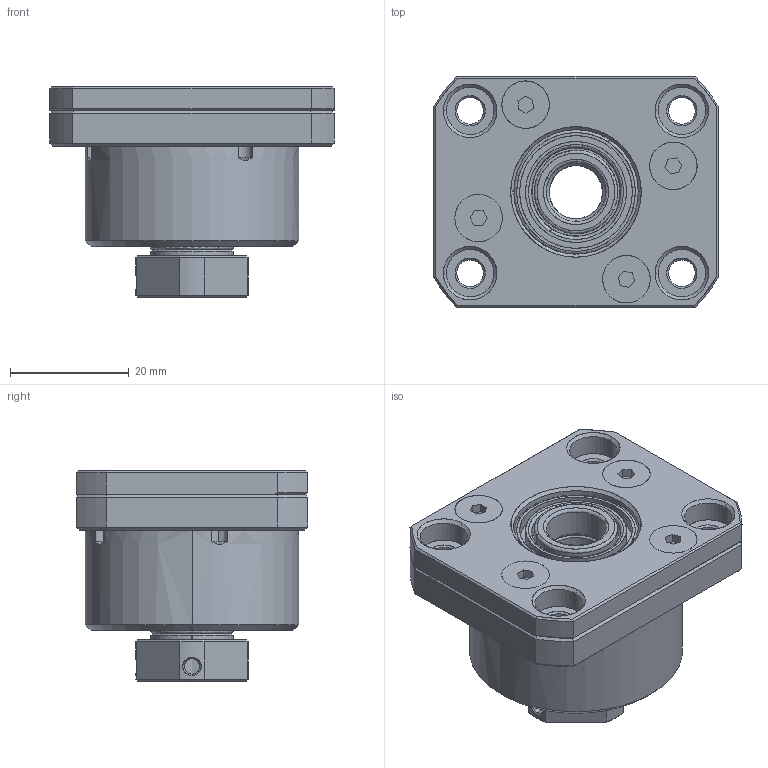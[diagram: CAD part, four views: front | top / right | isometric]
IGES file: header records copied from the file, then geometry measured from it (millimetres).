
Start section: SolidWorks IGES file using analytic representation for surfaces
Bounding box: 48 x 39 x 35.5 mm (x, y, z)
Surface area: 13445 mm2 (no closed solid volume)
Topology: 0 solids, 0 shells, 244 faces, 3387 edges, 3387 vertices
Faces by surface type: revolution 137, bspline 107
